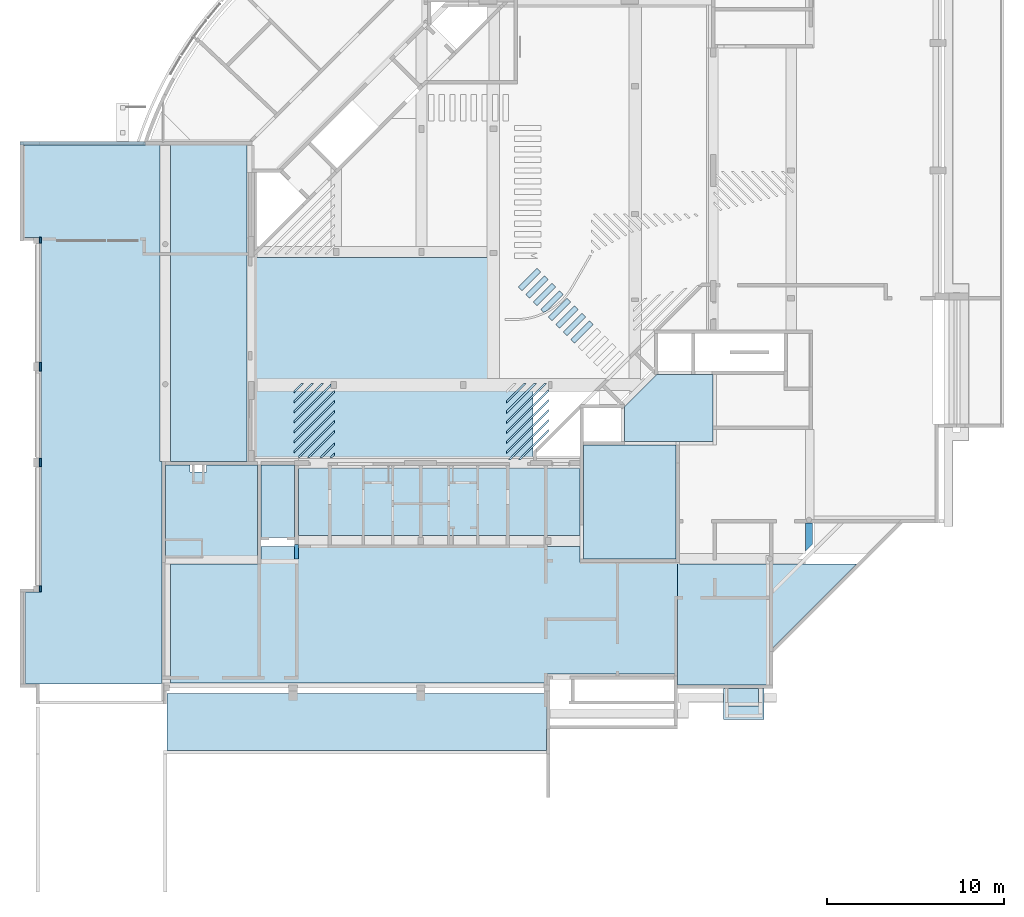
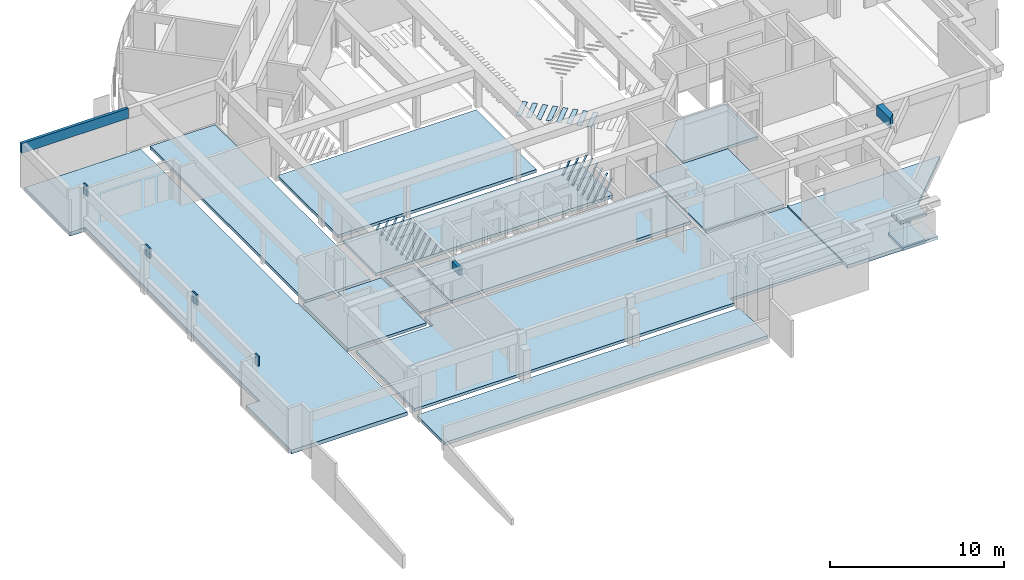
# One storey, part 4 of 22: 31 slabs, 7 beams.
"""IFC4X3_ADD2 building model written with IfcOpenShell, lengths in millimetres."""

from ifc_helpers import new_model, si_unit, point, direction, frame, frame_2d, origin_with_axes, origin_2d_with_axis, place, context, subcontext, project, spatial, polyline, circle_curve, trimmed, segment, composite_curve, rectangle, outline, extrude, polygons, source, transform, mapped, material, type_object, type_shapes, element, save


model = new_model("IFC4X3_ADD2")

# Units and contexts
model_context = context("Model", 3, precision=1e-05, world=origin_with_axes(), true_north=direction((0.0, 1.0)))
body_context = subcontext(model_context, "Body", "Model", "MODEL_VIEW")
ifc_project = project(units=[si_unit("LENGTHUNIT", "METRE", prefix="MILLI"), si_unit("AREAUNIT", "SQUARE_METRE"), si_unit("VOLUMEUNIT", "CUBIC_METRE"), si_unit("PLANEANGLEUNIT", "RADIAN"), si_unit("TIMEUNIT", "SECOND"), si_unit("MASSUNIT", "GRAM")], contexts=[model_context])

# Site, building, storey
site_placement = place(None, origin_with_axes())
site = spatial("IfcSite", under=ifc_project, at=site_placement, Name="Site", CompositionType="ELEMENT")
building_placement = place(site_placement, origin_with_axes())
building = spatial("IfcBuilding", under=site, at=building_placement, Name="IFC Building Story")
storey_placement = place(building_placement, frame((0.0, 0.0, -3240.0), z_axis=(0.0, 0.0, 1.0), x_axis=(1.0, 0.0, 0.0)))
storey = spatial("IfcBuildingStorey", under=building, at=storey_placement, Name="K10", Elevation=-3240.0)

# Beams
ifc_material_1 = material(Name="BB_Beton_Bestaand")
beam_type_1 = type_object("IfcBeamType", Name="BB_XX_Betonbalk_ rechthoekig_ center-center_SFB_400 x 700 mm3", PredefinedType="NOTDEFINED")
shared_shape_1 = source(origin_with_axes(), body_context, "Body", "Tessellation", [
    polygons([(0.0, 1581.90908859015, 700.0), (400.0, 1581.90908859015, 700.0), (400.0, 1581.90908859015, 0.0), (0.0, 1581.90908859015, 0.0), (0.0, 2.16573425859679e-12, 0.0), (0.0, 2.16573425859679e-12, 700.0), (399.999999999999, 400.000000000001, 0.0), (399.999999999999, 400.000000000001, 700.0)], [[[1, 2, 3, 4]], [[1, 4, 5, 6]], [[4, 3, 7, 5]], [[3, 2, 8, 7]], [[2, 1, 6, 8]], [[6, 5, 7, 8]]]),
])
type_shapes(beam_type_1, [shared_shape_1])
beam_1_placement = place(storey_placement, frame((-7400.0, 7633.09091140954, 2440.0), z_axis=(0.0, 0.0, 1.0), x_axis=(1.0, 0.0, 0.0)))
element("IfcBeam", 1, at=beam_1_placement, inside=storey, type_object=beam_type_1, material=ifc_material_1, Name="BB_XX_Betonbalk, rechthoekig, center-center_SFB:400 x 700 mm", ObjectType="BB_XX_Betonbalk, rechthoekig, center-center_SFB:400 x 700 mm", PredefinedType="BEAM", context=body_context, shape_type="MappedRepresentation", body=[
    mapped(shared_shape_1, transform((0.0, 0.0, 0.0))),
])
beam_type_2 = type_object("IfcBeamType", Name="BB_XX_Betonbalk_ rechthoekig_ center-center_SFB_200 x 500 mm13", PredefinedType="NOTDEFINED")
shared_shape_2 = source(origin_with_axes(), body_context, "Body", "SweptSolid", [
    extrude(rectangle(XDim=800.000000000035, YDim=200.0, at=origin_2d_with_axis()), frame((-4.001776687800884e-11, 0.0, -250.0), z_axis=(0.0, 0.0, 1.0), x_axis=(1.0, 0.0, 0.0)), (0.0, 0.0, 1.0), 500.0),
])
type_shapes(beam_type_2, [shared_shape_2])
beam_2_placement = place(storey_placement, frame((-36100.0, 7600.0, 2790.0), z_axis=(0.0, 0.0, 1.0), x_axis=(0.0, -1.0, 0.0)))
element("IfcBeam", 2, at=beam_2_placement, inside=storey, type_object=beam_type_2, material=ifc_material_1, Name="BB_XX_Betonbalk, rechthoekig, center-center_SFB:200 x 500 mm", ObjectType="200 x 500 mm", PredefinedType="BEAM", context=body_context, shape_type="MappedRepresentation", body=[
    mapped(shared_shape_2, transform((0.0, 0.0, 0.0))),
])
beam_type_3 = type_object("IfcBeamType", Name="BB_XX_Betonbalk_ rechthoekig_ center-center_SFB_290 x 700 mm5", PredefinedType="NOTDEFINED")
shared_shape_3 = source(origin_with_axes(), body_context, "Body", "SweptSolid", [
    extrude(rectangle(XDim=339.9999999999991, YDim=100.0, at=frame_2d((0.0, 0.0), x_axis=(0.0, 1.0))), frame((-50555.0, 5510.0, -900.0), z_axis=(0.0, 0.0, 1.0), x_axis=(1.0, 0.0, 0.0)), (0.0, 0.0, 1.0), 700.0),
])
type_shapes(beam_type_3, [shared_shape_3])
beam_3_placement = place(storey_placement, frame((0.0, 0.0, 3240.0), z_axis=(0.0, 0.0, 1.0), x_axis=(1.0, 0.0, 0.0)))
element("IfcBeam", 3, at=beam_3_placement, inside=storey, type_object=beam_type_3, material=ifc_material_1, Name="BB_XX_Betonbalk, rechthoekig, center-center_SFB:290 x 700 mm", ObjectType="290 x 700 mm 2", PredefinedType="BEAM", context=body_context, shape_type="MappedRepresentation", body=[
    mapped(shared_shape_3, transform((0.0, 0.0, 0.0))),
])
beam_type_4 = type_object("IfcBeamType", Name="BB_XX_Betonbalk_ rechthoekig_ center-center_SFB_290 x 700 mm9", PredefinedType="NOTDEFINED")
shared_shape_4 = source(origin_with_axes(), body_context, "Body", "SweptSolid", [
    extrude(rectangle(XDim=490.0000000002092, YDim=99.99999999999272, at=frame_2d((0.0, 0.0), x_axis=(0.0, 1.0))), frame((-50555.00000000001, 12629.9999999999, -900.0), z_axis=(0.0, 0.0, 1.0), x_axis=(1.0, 0.0, 0.0)), (0.0, 0.0, 1.0), 700.0),
])
type_shapes(beam_type_4, [shared_shape_4])
beam_4_placement = place(storey_placement, frame((0.0, 0.0, 3240.0), z_axis=(0.0, 0.0, 1.0), x_axis=(1.0, 0.0, 0.0)))
element("IfcBeam", 4, at=beam_4_placement, inside=storey, type_object=beam_type_4, material=ifc_material_1, Name="BB_XX_Betonbalk, rechthoekig, center-center_SFB:290 x 700 mm", ObjectType="290 x 700 mm 2", PredefinedType="BEAM", context=body_context, shape_type="MappedRepresentation", body=[
    mapped(shared_shape_4, transform((0.0, 0.0, 0.0))),
])
beam_type_5 = type_object("IfcBeamType", Name="BB_XX_Betonbalk_ rechthoekig_ center-center_SFB_290 x 700 mm11", PredefinedType="NOTDEFINED")
shared_shape_5 = source(origin_with_axes(), body_context, "Body", "SweptSolid", [
    extrude(rectangle(XDim=490.0000000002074, YDim=100.0000000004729, at=frame_2d((0.0, 0.0), x_axis=(0.0, 1.0))), frame((-50555.00000000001, 18029.99999999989, -900.0), z_axis=(0.0, 0.0, 1.0), x_axis=(1.0, 0.0, 0.0)), (0.0, 0.0, 1.0), 700.0),
])
type_shapes(beam_type_5, [shared_shape_5])
beam_5_placement = place(storey_placement, frame((0.0, 0.0, 3240.0), z_axis=(0.0, 0.0, 1.0), x_axis=(1.0, 0.0, 0.0)))
element("IfcBeam", 5, at=beam_5_placement, inside=storey, type_object=beam_type_5, material=ifc_material_1, Name="BB_XX_Betonbalk, rechthoekig, center-center_SFB:290 x 700 mm", ObjectType="290 x 700 mm 2", PredefinedType="BEAM", context=body_context, shape_type="MappedRepresentation", body=[
    mapped(shared_shape_5, transform((0.0, 0.0, 0.0))),
])
beam_type_6 = type_object("IfcBeamType", Name="BB_XX_Betonbalk_ rechthoekig_ center-center_SFB_290 x 700 mm13", PredefinedType="NOTDEFINED")
shared_shape_6 = source(origin_with_axes(), body_context, "Body", "SweptSolid", [
    extrude(rectangle(XDim=340.0, YDim=99.99999999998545, at=frame_2d((0.0, 0.0), x_axis=(0.0, 1.0))), frame((-50555.00000000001, 25160.0, -900.0), z_axis=(0.0, 0.0, 1.0), x_axis=(1.0, 0.0, 0.0)), (0.0, 0.0, 1.0), 700.0),
])
type_shapes(beam_type_6, [shared_shape_6])
beam_6_placement = place(storey_placement, frame((0.0, 0.0, 3240.0), z_axis=(0.0, 0.0, 1.0), x_axis=(1.0, 0.0, 0.0)))
element("IfcBeam", 6, at=beam_6_placement, inside=storey, type_object=beam_type_6, material=ifc_material_1, Name="BB_XX_Betonbalk, rechthoekig, center-center_SFB:290 x 700 mm", ObjectType="290 x 700 mm 2", PredefinedType="BEAM", context=body_context, shape_type="MappedRepresentation", body=[
    mapped(shared_shape_6, transform((0.0, 0.0, 0.0))),
])
beam_type_7 = type_object("IfcBeamType", Name="BB_XX_Betonbalk_ rechthoekig_ center-center_SFB_190 x 700 mm5", PredefinedType="NOTDEFINED")
shared_shape_7 = source(origin_with_axes(), body_context, "Body", "Tessellation", [
    polygons([(8.66293703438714e-12, 190.000000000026, 700.0), (8.66293703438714e-12, 190.000000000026, 0.0), (8.66293703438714e-12, 2.16573425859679e-11, 0.0), (8.66293703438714e-12, 2.16573425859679e-11, 700.0), (7069.26266375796, 4.33146851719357e-12, 700.0), (7069.26266375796, 4.33146851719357e-12, 0.0), (7069.26266375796, 159.897969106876, 0.0), (7069.26266375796, 159.89796910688, 700.0), (6979.46980955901, 190.000000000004, 700.0), (6979.46980955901, 190.000000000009, 0.0)], [[[1, 2, 3, 4]], [[5, 6, 7, 8]], [[2, 1, 9, 10]], [[3, 2, 10]], [[3, 10, 7]], [[3, 7, 6]], [[4, 3, 6, 5]], [[1, 4, 5]], [[1, 5, 8]], [[1, 8, 9]], [[8, 7, 10, 9]]]),
])
type_shapes(beam_type_7, [shared_shape_7])
beam_7_placement = place(storey_placement, frame((-51695.0, 30534.8698058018, 2340.0), z_axis=(0.0, 0.0, 1.0), x_axis=(1.0, 0.0, 0.0)))
element("IfcBeam", 7, at=beam_7_placement, inside=storey, type_object=beam_type_7, material=ifc_material_1, Name="BB_XX_Betonbalk, rechthoekig, center-center_SFB:190 x 700 mm", ObjectType="BB_XX_Betonbalk, rechthoekig, center-center_SFB:190 x 700 mm", PredefinedType="BEAM", context=body_context, shape_type="MappedRepresentation", body=[
    mapped(shared_shape_7, transform((0.0, 0.0, 0.0))),
])

# Slabs
slab_type_1 = type_object("IfcSlabType", Name="BB_Beton_Bestaand 200", PredefinedType="FLOOR", material=ifc_material_1)
slab_1_placement = place(storey_placement, frame((-43199.99999999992, 194.9999999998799, -300.0), z_axis=(0.0, 0.0, 1.0), x_axis=(1.0, 0.0, 0.0)))
element("IfcSlab", 8, at=slab_1_placement, inside=storey, type_object=slab_type_1, Name="Floor:BB_XX_Vloer uit beton, 200 mm", ObjectType="Floor:BB_XX_Vloer uit beton, 200 mm", PredefinedType="FLOOR", context=body_context, shape_type="SweptSolid", body=[
    extrude(outline(polyline([(5620.000000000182, -3841.000000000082), (5620.000000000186, -4341.000000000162), (-15604.99999999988, -4341.000000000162), (-15604.99999999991, 2364.000000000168), (-10504.9999999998, 2364.000000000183), (-10504.9999999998, 3353.999999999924), (7494.999999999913, 3353.999999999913), (7494.999999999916, 2464.000000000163), (12994.99999999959, 2464.000000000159), (12994.99999999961, -3841.000000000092), (5620.000000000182, -3841.000000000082)])), frame((15604.99999999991, 4341.000000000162, 0.0), z_axis=(0.0, 0.0, 1.0), x_axis=(1.0, 0.0, 0.0)), (0.0, 0.0, 1.0), 200.0),
])
slab_2_placement = place(storey_placement, frame((-19899.99999999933, 13614.99999999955, -200.0), z_axis=(0.0, 0.0, 1.0), x_axis=(0.0, -1.0, 0.0)))
element("IfcSlab", 9, at=slab_2_placement, inside=storey, type_object=slab_type_1, Name="Floor:BB_XX_Vloer uit beton, 200 mm", ObjectType="Floor:BB_XX_Vloer uit beton, 200 mm", PredefinedType="FLOOR", context=body_context, shape_type="SweptSolid", body=[
    extrude(rectangle(XDim=6414.999999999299, YDim=5199.999999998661, at=frame_2d((0.0, 0.0), x_axis=(-1.0, 0.0))), frame((3207.499999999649, 2599.999999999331, 0.0), z_axis=(0.0, 0.0, 1.0), x_axis=(1.0, 0.0, 0.0)), (0.0, 0.0, 1.0), 200.0),
])
slab_3_placement = place(storey_placement, frame((-17599.9999999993, 13814.9999999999, -200.0), z_axis=(0.0, 0.0, 1.0), x_axis=(1.0, 0.0, 0.0)))
element("IfcSlab", 10, at=slab_3_placement, inside=storey, type_object=slab_type_1, Name="Floor:BB_XX_Vloer uit beton, 200 mm", ObjectType="Floor:BB_XX_Vloer uit beton, 200 mm", PredefinedType="FLOOR", context=body_context, shape_type="SweptSolid", body=[
    extrude(outline(polyline([(2634.715728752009, 1879.284271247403), (2634.715728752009, -1905.715728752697), (-2365.284271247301, -1905.715728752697), (-2365.284271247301, 52.86291501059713), (-538.8629150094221, 1879.284271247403), (2634.715728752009, 1879.284271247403)])), frame((2365.284271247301, 1905.715728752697, 0.0), z_axis=(0.0, 0.0, 1.0), x_axis=(1.0, 0.0, 0.0)), (0.0, 0.0, 1.0), 200.0),
])
slab_4_placement = place(storey_placement, frame((-43499.99999999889, 12500.00147850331, -300.0), z_axis=(0.0, 0.0, 1.0), x_axis=(0.0, -1.0, 0.0)))
element("IfcSlab", 11, at=slab_4_placement, inside=storey, type_object=slab_type_1, Name="Floor:BB_XX_Vloer uit beton, 200 mm", ObjectType="Floor:BB_XX_Vloer uit beton, 200 mm", PredefinedType="FLOOR", context=body_context, shape_type="SweptSolid", body=[
    extrude(outline(polyline([(-1402.500369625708, 2972.500000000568), (3797.501108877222, 2972.500000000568), (3797.501108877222, -2227.499999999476), (-1402.500369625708, -2227.499999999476), (-1402.500369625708, -847.5000000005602), (-992.50036962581, -847.5000000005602), (-992.5003696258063, 102.4999999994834), (-1402.500369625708, 102.4999999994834), (-1402.500369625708, 2972.500000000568)])), frame((1402.500369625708, 2227.499999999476, 0.0), z_axis=(0.0, 0.0, 1.0), x_axis=(1.0, 0.0, 0.0)), (0.0, 0.0, 1.0), 200.0),
])
slab_5_placement = place(storey_placement, frame((-12032.0, -1854.624586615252, 1290.0), z_axis=(0.0, 0.0, 1.0), x_axis=(1.0, 0.0, 0.0)))
element("IfcSlab", 12, at=slab_5_placement, inside=storey, type_object=slab_type_1, Name="Floor:BB_XX_Vloer uit beton, 200 mm", ObjectType="Floor:BB_XX_Vloer uit beton, 200 mm", PredefinedType="FLOOR", context=body_context, shape_type="SweptSolid", body=[
    extrude(rectangle(XDim=2300.0, YDim=1749.624586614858, at=origin_2d_with_axis()), frame((1150.0, 874.812293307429, 0.0), z_axis=(0.0, 0.0, 1.0), x_axis=(1.0, 0.0, 0.0)), (0.0, 0.0, 1.0), 200.0),
])
slab_6_placement = place(storey_placement, frame((-11782.0, -1105.016997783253, 2589.99923706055), z_axis=(0.0, 0.0, 1.0), x_axis=(1.0, 0.0, 0.0)))
element("IfcSlab", 13, at=slab_6_placement, inside=storey, type_object=slab_type_1, Name="Floor:BB_XX_Vloer uit beton, 200 mm", ObjectType="Floor:BB_XX_Vloer uit beton, 200 mm", PredefinedType="FLOOR", context=body_context, shape_type="SweptSolid", body=[
    extrude(rectangle(XDim=1750.000000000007, YDim=1000.016997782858, at=origin_2d_with_axis()), frame((875.0000000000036, 500.0084988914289, 0.0), z_axis=(0.0, 0.0, 1.0), x_axis=(1.0, 0.0, 0.0)), (0.0, 0.0, 1.0), 200.0),
])
slab_type_2 = type_object("IfcSlabType", Name="BB_Beton_Bestaand 250", PredefinedType="FLOOR", material=ifc_material_1)
slab_7_placement = place(storey_placement, frame((-14599.99999999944, 94.99999999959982, -250.0), z_axis=(0.0, 0.0, 1.0), x_axis=(1.0, 0.0, 0.0)))
element("IfcSlab", 14, at=slab_7_placement, inside=storey, type_object=slab_type_2, Name="Floor:BB_XX_Vloer welfsels, 250 mm", ObjectType="Floor:BB_XX_Vloer welfsels, 250 mm", PredefinedType="FLOOR", context=body_context, shape_type="SweptSolid", body=[
    extrude(outline(polyline([(2221.261596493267, -2293.858992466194), (2221.261596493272, -4187.690167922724), (-2943.738403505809, -4187.690167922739), (-2943.738403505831, 2717.309832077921), (-2843.73840350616, 2717.309832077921), (-2843.738403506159, 2617.309832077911), (7132.430421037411, 2617.309832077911), (2221.261596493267, -2293.858992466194)])), frame((2943.738403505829, 4187.690167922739, 0.0), z_axis=(0.0, 0.0, 1.0), x_axis=(1.0, 0.0, 0.0)), (0.0, 0.0, 1.0), 250.0),
])
ifc_material_2 = material(Name="BB_Belijning parkeervakken_Nieuw")
slab_type_3 = type_object("IfcSlabType", Name="BB_Belijning parkeervakken_Nieuw 10", PredefinedType="FLOOR", material=ifc_material_2)
for number, where, z_axis, x_axis, name in (
    (15, (-22536.39610306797, 23597.05627484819, 0.0), (0.0, 0.0, 1.0), (-0.7071067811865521, -0.707106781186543, 0.0), "Floor:BB_13.XX_Epoxyverf, belijning zebrapaden"),
    (16, (-22112.13203435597, 23172.79220613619, 0.0), (0.0, 0.0, 1.0), (-0.7071067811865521, -0.707106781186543, 0.0), "Floor:BB_13.XX_Epoxyverf, belijning zebrapaden"),
    (17, (-21687.86796564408, 22748.52813742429, 0.0), (0.0, 0.0, 1.0), (-0.7071067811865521, -0.707106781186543, 0.0), "Floor:BB_13.XX_Epoxyverf, belijning zebrapaden"),
):
    element("IfcSlab", number, at=place(storey_placement, frame(where, z_axis=z_axis, x_axis=x_axis)), inside=storey, type_object=slab_type_3, Name=name, ObjectType="Floor:BB_13.XX_Epoxyverf, belijning zebrapaden", PredefinedType="FLOOR", context=body_context, shape_type="SweptSolid", body=[
        extrude(rectangle(XDim=1499.999999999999, YDim=299.9999999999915, at=frame_2d((0.0, 0.0), x_axis=(-1.0, 0.0))), frame((750.0, 150.0, 0.0), z_axis=(0.0, 0.0, 1.0), x_axis=(1.0, 0.0, 0.0)), (0.0, 0.0, 1.0), 9.99999999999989),
    ])
slab_8_placement = place(storey_placement, frame((-21263.60389693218, 22324.26406871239, 0.0), z_axis=(0.0, 0.0, 1.0), x_axis=(-0.7071067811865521, -0.707106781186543, 0.0)))
element("IfcSlab", 18, at=slab_8_placement, inside=storey, type_object=slab_type_3, Name="Floor:BB_13.XX_Epoxyverf, belijning zebrapaden", ObjectType="Floor:BB_13.XX_Epoxyverf, belijning zebrapaden", PredefinedType="FLOOR", context=body_context, shape_type="SweptSolid", body=[
    extrude(outline(composite_curve([segment(polyline([(-300.7446316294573, 3165.56785945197), (-300.7446316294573, 3465.567859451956)]), True, "CONTINUOUS"), segment(polyline([(-300.7446316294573, 3465.567859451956), (974.5970508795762, 3465.567859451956)]), True, "CONTINUOUS"), segment(trimmed(circle_curve(origin_2d_with_axis(), 3600.000000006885), [point((974.5970508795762, 3465.567859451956))], [point((1199.255368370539, 3394.375724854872))], False, "CARTESIAN"), True, "CONTINUOUS"), segment(polyline([(1199.255368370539, 3394.375724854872), (1199.255368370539, 3165.56785945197)]), True, "CONTINUOUS"), segment(polyline([(1199.255368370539, 3165.56785945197), (-300.7446316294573, 3165.56785945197)]), True, "CONTINUOUS")], self_intersect=False)), frame((300.7446316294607, -3165.56785945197, 0.0), z_axis=(0.0, 0.0, 1.0), x_axis=(1.0, 0.0, 0.0)), (0.0, 0.0, 1.0), 9.999999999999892),
])
for number, where, z_axis, x_axis, name in (
    (19, (-20839.33982822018, 21900.00000000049, 0.0), (0.0, 0.0, 1.0), (-0.7071067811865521, -0.707106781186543, 0.0), "Floor:BB_13.XX_Epoxyverf, belijning zebrapaden"),
    (20, (-20415.07575950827, 21475.73593128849, 0.0), (0.0, 0.0, 1.0), (-0.7071067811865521, -0.707106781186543, 0.0), "Floor:BB_13.XX_Epoxyverf, belijning zebrapaden"),
):
    element("IfcSlab", number, at=place(storey_placement, frame(where, z_axis=z_axis, x_axis=x_axis)), inside=storey, type_object=slab_type_3, Name=name, ObjectType="Floor:BB_13.XX_Epoxyverf, belijning zebrapaden", PredefinedType="FLOOR", context=body_context, shape_type="SweptSolid", body=[
        extrude(rectangle(XDim=1499.999999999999, YDim=299.9999999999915, at=frame_2d((0.0, 0.0), x_axis=(-1.0, 0.0))), frame((750.0, 150.0, 0.0), z_axis=(0.0, 0.0, 1.0), x_axis=(1.0, 0.0, 0.0)), (0.0, 0.0, 1.0), 9.99999999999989),
    ])
slab_9_placement = place(storey_placement, frame((-19990.81169079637, 21051.47186257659, 0.0), z_axis=(0.0, 0.0, 1.0), x_axis=(-0.7071067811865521, -0.707106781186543, 0.0)))
element("IfcSlab", 21, at=slab_9_placement, inside=storey, type_object=slab_type_3, Name="Floor:BB_13.XX_Epoxyverf, belijning zebrapaden", ObjectType="Floor:BB_13.XX_Epoxyverf, belijning zebrapaden", PredefinedType="FLOOR", context=body_context, shape_type="SweptSolid", body=[
    extrude(rectangle(XDim=1499.999999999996, YDim=299.9999999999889, at=frame_2d((0.0, 0.0), x_axis=(-1.0, 0.0))), frame((750.0, 150.0, 0.0), z_axis=(0.0, 0.0, 1.0), x_axis=(1.0, 0.0, 0.0)), (0.0, 0.0, 1.0), 9.99999999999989),
])
slab_10_placement = place(storey_placement, frame((-19566.54762208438, 20627.20779386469, 0.0), z_axis=(0.0, 0.0, 1.0), x_axis=(-0.7071067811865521, -0.707106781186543, 0.0)))
element("IfcSlab", 22, at=slab_10_placement, inside=storey, type_object=slab_type_3, Name="Floor:BB_13.XX_Epoxyverf, belijning zebrapaden", ObjectType="Floor:BB_13.XX_Epoxyverf, belijning zebrapaden", PredefinedType="FLOOR", context=body_context, shape_type="SweptSolid", body=[
    extrude(rectangle(XDim=1499.999999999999, YDim=299.9999999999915, at=frame_2d((0.0, 0.0), x_axis=(-1.0, 0.0))), frame((750.0, 150.0, 0.0), z_axis=(0.0, 0.0, 1.0), x_axis=(1.0, 0.0, 0.0)), (0.0, 0.0, 1.0), 9.99999999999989),
])
slab_11_placement = place(storey_placement, frame((-23189.33982822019, 17170.71067811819, 0.0), z_axis=(0.0, 0.0, 1.0), x_axis=(-0.7071067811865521, -0.707106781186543, 0.0)))
element("IfcSlab", 23, at=slab_11_placement, inside=storey, type_object=slab_type_3, Name="Floor:BB_13.XX_Epoxyverf, belijning arcering:2", ObjectType="Floor:BB_13.XX_Epoxyverf, belijning arcering", PredefinedType="FLOOR", context=body_context, shape_type="SweptSolid", body=[
    extrude(outline(polyline([(-799.9999999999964, 50.0), (799.9999999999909, 50.0), (699.9999999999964, -49.99999999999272), (-699.9999999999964, -50.0), (-799.9999999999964, 50.0)])), frame((799.9999999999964, 50.0, 0.0), z_axis=(0.0, 0.0, 1.0), x_axis=(1.0, 0.0, 0.0)), (0.0, 0.0, 1.0), 9.99999999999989),
])
slab_12_placement = place(storey_placement, frame((-22623.65440327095, 17170.71067811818, 0.0), z_axis=(0.0, 0.0, 1.0), x_axis=(-0.7071067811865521, -0.707106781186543, 0.0)))
element("IfcSlab", 24, at=slab_12_placement, inside=storey, type_object=slab_type_3, Name="Floor:BB_13.XX_Epoxyverf, belijning arcering:3", ObjectType="Floor:BB_13.XX_Epoxyverf, belijning arcering", PredefinedType="FLOOR", context=body_context, shape_type="SweptSolid", body=[
    extrude(outline(polyline([(-1199.999999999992, 49.99999999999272), (1199.99999999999, 49.99999999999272), (1099.99999999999, -50.00000000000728), (-1099.999999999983, -50.0), (-1199.999999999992, 49.99999999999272)])), frame((1199.999999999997, 49.99999999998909, 0.0), z_axis=(0.0, 0.0, 1.0), x_axis=(1.0, 0.0, 0.0)), (0.0, 0.0, 1.0), 9.99999999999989),
])
slab_13_placement = place(storey_placement, frame((-22057.96897832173, 17170.71067811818, 0.0), z_axis=(0.0, 0.0, 1.0), x_axis=(-0.7071067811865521, -0.707106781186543, 0.0)))
element("IfcSlab", 25, at=slab_13_placement, inside=storey, type_object=slab_type_3, Name="Floor:BB_13.XX_Epoxyverf, belijning arcering:4", ObjectType="Floor:BB_13.XX_Epoxyverf, belijning arcering", PredefinedType="FLOOR", context=body_context, shape_type="SweptSolid", body=[
    extrude(outline(polyline([(-1599.999999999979, 49.99999999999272), (1599.999999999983, 49.99999999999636), (1499.999999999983, -50.00000000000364), (-1499.999999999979, -50.00000000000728), (-1599.999999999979, 49.99999999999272)])), frame((1599.999999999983, 50.0, 0.0), z_axis=(0.0, 0.0, 1.0), x_axis=(1.0, 0.0, 0.0)), (0.0, 0.0, 1.0), 9.99999999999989),
])
for number, where, z_axis, x_axis, name in (
    (26, (-21900.0, 16762.99423149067, 0.0), (0.0, 0.0, 1.0), (-0.7071067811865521, -0.707106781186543, 0.0), "Floor:BB_13.XX_Epoxyverf, belijning arcering:5"),
    (27, (-21900.0, 16197.30880654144, 0.0), (0.0, 0.0, 1.0), (-0.7071067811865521, -0.707106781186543, 0.0), "Floor:BB_13.XX_Epoxyverf, belijning arcering:6"),
    (28, (-21900.0, 15631.6233815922, 0.0), (0.0, 0.0, 1.0), (-0.7071067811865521, -0.707106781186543, 0.0), "Floor:BB_13.XX_Epoxyverf, belijning arcering:7"),
):
    element("IfcSlab", number, at=place(storey_placement, frame(where, z_axis=z_axis, x_axis=x_axis)), inside=storey, type_object=slab_type_3, Name=name, ObjectType="Floor:BB_13.XX_Epoxyverf, belijning arcering", PredefinedType="FLOOR", context=body_context, shape_type="SweptSolid", body=[
        extrude(outline(polyline([(-1611.700935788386, 49.99999999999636), (1711.700935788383, 49.99999999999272), (1611.700935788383, -50.00000000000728), (-1711.700935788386, -50.00000000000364), (-1611.700935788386, 49.99999999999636)])), frame((1711.700935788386, 49.99999999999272, 0.0), z_axis=(0.0, 0.0, 1.0), x_axis=(1.0, 0.0, 0.0)), (0.0, 0.0, 1.0), 9.99999999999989),
    ])
slab_14_placement = place(storey_placement, frame((-21900.0, 15065.93795664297, 0.0), z_axis=(0.0, 0.0, 1.0), x_axis=(-0.7071067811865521, -0.707106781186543, 0.0)))
element("IfcSlab", 29, at=slab_14_placement, inside=storey, type_object=slab_type_3, Name="Floor:BB_13.XX_Epoxyverf, belijning arcering:8", ObjectType="Floor:BB_13.XX_Epoxyverf, belijning arcering", PredefinedType="FLOOR", context=body_context, shape_type="SweptSolid", body=[
    extrude(outline(polyline([(-1491.653493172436, 49.99999999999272), (1491.65349317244, 49.99999999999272), (1591.653493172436, -50.0), (-1591.653493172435, -50.00000000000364), (-1491.653493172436, 49.99999999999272)])), frame((1591.653493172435, 49.99999999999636, 0.0), z_axis=(0.0, 0.0, 1.0), x_axis=(1.0, 0.0, 0.0)), (0.0, 0.0, 1.0), 9.99999999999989),
])
slab_15_placement = place(storey_placement, frame((-21900.00000000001, 14500.25253169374, 0.0), z_axis=(0.0, 0.0, 1.0), x_axis=(-0.7071067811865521, -0.707106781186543, 0.0)))
element("IfcSlab", 30, at=slab_15_placement, inside=storey, type_object=slab_type_3, Name="Floor:BB_13.XX_Epoxyverf, belijning arcering:9", ObjectType="Floor:BB_13.XX_Epoxyverf, belijning arcering", PredefinedType="FLOOR", context=body_context, shape_type="SweptSolid", body=[
    extrude(outline(polyline([(-1091.653493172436, 49.99999999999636), (1091.65349317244, 49.99999999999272), (1191.653493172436, -50.00000000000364), (-1191.653493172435, -50.00000000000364), (-1091.653493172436, 49.99999999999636)])), frame((1191.653493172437, 49.99999999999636, 0.0), z_axis=(0.0, 0.0, 1.0), x_axis=(1.0, 0.0, 0.0)), (0.0, 0.0, 1.0), 9.99999999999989),
])
slab_type_4 = type_object("IfcSlabType", Name="Floor_BB_13.XX_Epoxyverf_ belijning arcering", PredefinedType="NOTDEFINED")
shared_shape_8 = source(origin_with_axes(), body_context, "Body", "SweptSolid", [
    extrude(outline(polyline([(-1080.824317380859, -1010.11363926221), (1010.113639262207, 1080.824317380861), (1010.113639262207, 939.4029611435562), (-939.4029611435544, -1010.11363926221), (-1080.824317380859, -1010.11363926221)])), frame((-34960.1136392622, 13935.1136392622, 0.0), z_axis=(0.0, 0.0, 1.0), x_axis=(1.0, 0.0, 0.0)), (0.0, 0.0, 1.0), 9.99999999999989),
    extrude(outline(polyline([(-247.4873734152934, -176.776695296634), (176.7766952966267, 247.4873734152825), (318.1980515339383, 247.4873734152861), (-247.4873734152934, -318.1980515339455), (-247.4873734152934, -176.776695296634)])), frame((-36002.51262658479, 16852.5126265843, 0.0), z_axis=(0.0, 0.0, 1.0), x_axis=(1.0, 0.0, 0.0)), (0.0, 0.0, 1.0), 9.99999999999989),
    extrude(outline(polyline([(-530.330085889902, -459.6194077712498), (459.6194077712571, 530.3300858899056), (601.0407640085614, 530.3300858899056), (-530.330085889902, -601.0407640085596), (-530.330085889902, -459.6194077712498)])), frame((-35719.6699141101, 16569.6699141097, 0.0), z_axis=(0.0, 0.0, 1.0), x_axis=(1.0, 0.0, 0.0)), (0.0, 0.0, 1.0), 9.99999999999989),
    extrude(outline(polyline([(-813.1727983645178, -742.4621202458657), (742.4621202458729, 813.1727983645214), (883.8834764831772, 813.1727983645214), (-813.1727983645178, -883.8834764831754), (-813.1727983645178, -742.4621202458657)])), frame((-35436.8272016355, 16286.8272016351, 0.0), z_axis=(0.0, 0.0, 1.0), x_axis=(1.0, 0.0, 0.0)), (0.0, 0.0, 1.0), 9.99999999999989),
    extrude(outline(polyline([(-1050.000000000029, -979.2893218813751), (1050.000000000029, 1120.710678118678), (1050.000000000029, 979.2893218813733), (-1050.000000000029, -1120.710678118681), (-1050.000000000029, -979.2893218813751)])), frame((-35200.0, 15957.9689783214, 0.0), z_axis=(0.0, 0.0, 1.0), x_axis=(1.0, 0.0, 0.0)), (0.0, 0.0, 1.0), 9.99999999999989),
    extrude(outline(polyline([(-1150.000000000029, -1079.28932188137), (1150.000000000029, 1220.710678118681), (1150.000000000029, 1079.28932188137), (-1150.000000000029, -1220.710678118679), (-1150.000000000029, -1079.28932188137)])), frame((-35100.0, 15492.2835533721, 0.0), z_axis=(0.0, 0.0, 1.0), x_axis=(1.0, 0.0, 0.0)), (0.0, 0.0, 1.0), 9.99999999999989),
    extrude(outline(polyline([(-1150.000000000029, -1079.28932188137), (1150.000000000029, 1220.710678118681), (1150.000000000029, 1079.28932188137), (-1150.000000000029, -1220.710678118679), (-1150.000000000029, -1079.28932188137)])), frame((-35100.0, 14926.5981284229, 0.0), z_axis=(0.0, 0.0, 1.0), x_axis=(1.0, 0.0, 0.0)), (0.0, 0.0, 1.0), 9.99999999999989),
    extrude(outline(polyline([(-1150.000000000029, -1079.28932188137), (1150.000000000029, 1220.710678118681), (1150.000000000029, 1079.28932188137), (-1150.000000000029, -1220.710678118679), (-1150.000000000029, -1079.28932188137)])), frame((-35100.0, 14360.9127034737, 0.0), z_axis=(0.0, 0.0, 1.0), x_axis=(1.0, 0.0, 0.0)), (0.0, 0.0, 1.0), 9.99999999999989),
    extrude(outline(polyline([(-797.9816049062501, -727.2709267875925), (727.2709267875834, 797.9816049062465), (727.2709267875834, 656.5602486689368), (-656.5602486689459, -727.2709267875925), (-797.9816049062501, -727.2709267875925)])), frame((-34677.27092678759, 13652.2709267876, 0.0), z_axis=(0.0, 0.0, 1.0), x_axis=(1.0, 0.0, 0.0)), (0.0, 0.0, 1.0), 9.99999999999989),
    extrude(outline(polyline([(-20.16414560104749, -90.87482371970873), (-161.5855018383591, -90.87482371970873), (90.87482371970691, 161.5855018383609), (90.87482371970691, 20.16414560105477), (-20.16414560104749, -90.87482371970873)])), frame((-34040.8748237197, 13015.8748237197, 0.0), z_axis=(0.0, 0.0, 1.0), x_axis=(1.0, 0.0, 0.0)), (0.0, 0.0, 1.0), 9.999999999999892),
    extrude(outline(polyline([(-303.0068580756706, -373.7175361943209), (-444.4282143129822, -373.7175361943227), (373.7175361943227, 444.4282143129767), (373.7175361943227, 303.0068580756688), (-303.0068580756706, -373.7175361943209)])), frame((-34323.7175361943, 13298.7175361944, 0.0), z_axis=(0.0, 0.0, 1.0), x_axis=(1.0, 0.0, 0.0)), (0.0, 0.0, 1.0), 9.99999999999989),
])
type_shapes(slab_type_4, [shared_shape_8])
slab_16_placement = place(storey_placement, origin_with_axes())
element("IfcSlab", 31, at=slab_16_placement, inside=storey, type_object=slab_type_4, material=ifc_material_2, Name="Floor:BB_13.XX_Epoxyverf, belijning arcering", ObjectType="Floor:BB_13.XX_Epoxyverf, belijning arcering", PredefinedType="FLOOR", context=body_context, shape_type="MappedRepresentation", body=[
    mapped(shared_shape_8, transform((0.0, 0.0, 0.0))),
])
slab_type_5 = type_object("IfcSlabType", Name="BB_Beton_Bestaand 210", PredefinedType="FLOOR", material=ifc_material_1)
slab_17_placement = place(storey_placement, frame((-43395.0, -3600.00000000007, -310.0), z_axis=(0.0, 0.0, 1.0), x_axis=(1.0, 0.0, 0.0)))
element("IfcSlab", 32, at=slab_17_placement, inside=storey, type_object=slab_type_5, Name="Floor:BB_XX_Vloer welfsels, 210 mm", ObjectType="Floor:BB_XX_Vloer welfsels, 210 mm", PredefinedType="FLOOR", context=body_context, shape_type="SweptSolid", body=[
    extrude(rectangle(XDim=21395.0000000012, YDim=3195.00000000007, at=origin_2d_with_axis()), frame((10697.5000000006, 1597.500000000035, 0.0), z_axis=(0.0, 0.0, 1.0), x_axis=(1.0, 0.0, 0.0)), (0.0, 0.0, 1.0), 210.0),
])
slab_18_placement = place(storey_placement, frame((-36000.0000000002, 8509.99999999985, -310.0), z_axis=(0.0, 0.0, 1.0), x_axis=(1.0, 0.0, 0.0)))
element("IfcSlab", 33, at=slab_18_placement, inside=storey, type_object=slab_type_5, Name="Floor:BB_XX_Vloer welfsels, 210 mm", ObjectType="Floor:BB_XX_Vloer welfsels, 210 mm", PredefinedType="FLOOR", context=body_context, shape_type="SweptSolid", body=[
    extrude(rectangle(XDim=15900.00000000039, YDim=3790.000000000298, at=origin_2d_with_axis()), frame((7950.0000000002, 1895.000000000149, 0.0), z_axis=(0.0, 0.0, 1.0), x_axis=(1.0, 0.0, 0.0)), (0.0, 0.0, 1.0), 210.0),
])
slab_19_placement = place(storey_placement, frame((-38400.00000000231, 12900.00000000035, -210.0), z_axis=(0.0, 0.0, 1.0), x_axis=(1.0, 0.0, 0.0)))
element("IfcSlab", 34, at=slab_19_placement, inside=storey, type_object=slab_type_5, Name="Floor:BB_XX_Vloer welfsels, 210 mm", ObjectType="Floor:BB_XX_Vloer welfsels, 210 mm", PredefinedType="FLOOR", context=body_context, shape_type="SweptSolid", body=[
    extrude(rectangle(XDim=15650.2947297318, YDim=3799.999999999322, at=origin_2d_with_axis()), frame((7825.147364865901, 1899.999999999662, 0.0), z_axis=(0.0, 0.0, 1.0), x_axis=(1.0, 0.0, 0.0)), (0.0, 0.0, 1.0), 210.0),
])
slab_20_placement = place(storey_placement, frame((-38400.00000000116, 17299.99999999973, -210.0), z_axis=(0.0, 0.0, 1.0), x_axis=(1.0, 0.0, 0.0)))
element("IfcSlab", 35, at=slab_20_placement, inside=storey, type_object=slab_type_5, Name="Floor:BB_XX_Vloer welfsels, 210 mm", ObjectType="Floor:BB_XX_Vloer welfsels, 210 mm", PredefinedType="FLOOR", context=body_context, shape_type="SweptSolid", body=[
    extrude(rectangle(XDim=13150.00000000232, YDim=6900.000000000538, at=origin_2d_with_axis()), frame((6575.000000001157, 3450.000000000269, 0.0), z_axis=(0.0, 0.0, 1.0), x_axis=(1.0, 0.0, 0.0)), (0.0, 0.0, 1.0), 210.0),
])
slab_21_placement = place(storey_placement, frame((-43199.99999999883, 30530.00000000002, -310.0), z_axis=(0.0, 0.0, 1.0), x_axis=(0.0, -1.0, 0.0)))
element("IfcSlab", 36, at=slab_21_placement, inside=storey, type_object=slab_type_5, Name="Floor:BB_XX_Vloer welfsels, 210 mm", ObjectType="Floor:BB_XX_Vloer welfsels, 210 mm", PredefinedType="FLOOR", context=body_context, shape_type="SweptSolid", body=[
    extrude(rectangle(XDim=17829.99593411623, YDim=4299.999999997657, at=frame_2d((0.0, 0.0), x_axis=(-1.0, 0.0))), frame((8914.99796705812, 2149.999999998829, 0.0), z_axis=(0.0, 0.0, 1.0), x_axis=(1.0, 0.0, 0.0)), (0.0, 0.0, 1.0), 210.0),
])
slab_type_6 = type_object("IfcSlabType", Name="BB_Beton_Bestaand 260", PredefinedType="FLOOR", material=ifc_material_1)
slab_22_placement = place(storey_placement, frame((-51505.00000000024, 30539.8698058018, -360.0), z_axis=(0.0, 0.0, 1.0), x_axis=(0.0, -1.0, 0.0)))
element("IfcSlab", 37, at=slab_22_placement, inside=storey, type_object=slab_type_6, Name="Floor:BB_XX_Vloer uit beton, 260 mm", ObjectType="Floor:BB_XX_Vloer uit beton, 260 mm", PredefinedType="FLOOR", context=body_context, shape_type="SweptSolid", body=[
    extrude(outline(polyline([(9467.97477433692, -2316.000000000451), (-10522.0252256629, -2316.000000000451), (-10522.0252256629, -3326.00000000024), (-15731.8950314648, -3326.00000000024), (-15731.8950314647, 4379.0), (2107.970708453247, 4378.999999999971), (2107.970708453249, 4479.00000000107), (14677.9747743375, 4479.00000000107), (14677.9747743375, -3216.000000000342), (9467.97477433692, -3216.000000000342), (9467.97477433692, -2316.000000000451)])), frame((15731.8950314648, 3326.00000000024, 0.0), z_axis=(0.0, 0.0, 1.0), x_axis=(1.0, 0.0, 0.0)), (0.0, 0.0, 1.0), 260.0),
])
slab_type_7 = type_object("IfcSlabType", Name="BB_Beton_Bestaand 150", PredefinedType="FLOOR", material=ifc_material_1)
slab_23_placement = place(storey_placement, frame((-38099.99999999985, 12500.00406588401, -250.0), z_axis=(0.0, 0.0, 1.0), x_axis=(0.0, -1.0, 0.0)))
element("IfcSlab", 38, at=slab_23_placement, inside=storey, type_object=slab_type_7, Name="Floor:BB_XX_Vloer uit beton, 150 mm", ObjectType="Floor:BB_XX_Vloer uit beton, 150 mm", PredefinedType="FLOOR", context=body_context, shape_type="SweptSolid", body=[
    extrude(rectangle(XDim=4100.004065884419, YDim=1899.999999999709, at=frame_2d((0.0, 0.0), x_axis=(-1.0, 0.0))), frame((2050.00203294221, 949.9999999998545, 0.0), z_axis=(0.0, 0.0, 1.0), x_axis=(1.0, 0.0, 0.0)), (0.0, 0.0, 1.0), 150.0),
])

save(model, "model.ifc")
